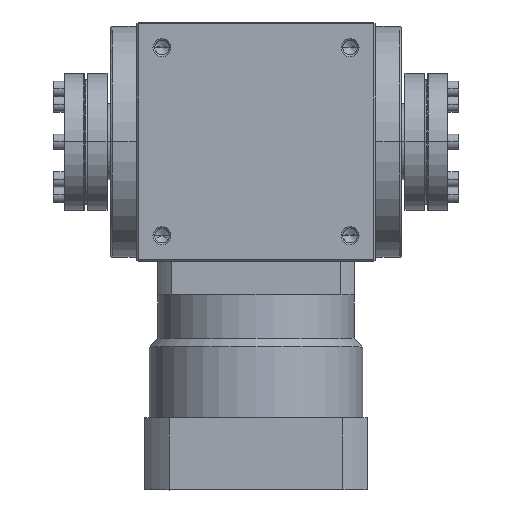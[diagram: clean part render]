
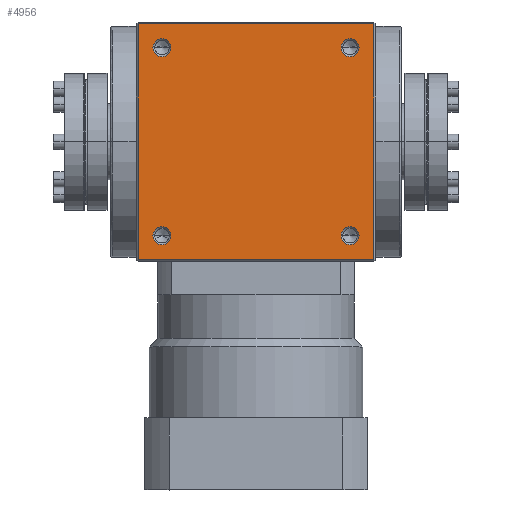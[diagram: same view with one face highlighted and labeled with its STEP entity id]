
A CAD part, top view. The second image highlights one B-rep face of the part: STEP entity #4956.
In plain terms, the highlighted planar face has unit normal (0, 0, 1).
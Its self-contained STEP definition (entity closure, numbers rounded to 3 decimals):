
#73 = ORIENTED_EDGE ( 'NONE', *, *, #784, .F. ) ;
#118 = DIRECTION ( 'NONE',  ( 0., 0., 1. ) ) ;
#169 = FACE_BOUND ( 'NONE', #16617, .T. ) ;
#228 = FACE_BOUND ( 'NONE', #10086, .T. ) ;
#759 = CIRCLE ( 'NONE', #19537, 5.25 ) ;
#784 = EDGE_CURVE ( 'NONE', #18448, #18470, #8925, .T. ) ;
#1139 = EDGE_LOOP ( 'NONE', ( #22423, #21860 ) ) ;
#1668 = AXIS2_PLACEMENT_3D ( 'NONE', #20353, #20347, #20320 ) ;
#1831 = CARTESIAN_POINT ( 'NONE',  ( -69., -69., 70. ) ) ;
#1834 = ORIENTED_EDGE ( 'NONE', *, *, #8769, .F. ) ;
#1878 = CIRCLE ( 'NONE', #10608, 5.25 ) ;
#1897 = EDGE_CURVE ( 'NONE', #3771, #20973, #14507, .T. ) ;
#2059 = EDGE_CURVE ( 'NONE', #9907, #21392, #20279, .T. ) ;
#2240 = EDGE_CURVE ( 'NONE', #8335, #8402, #3948, .T. ) ;
#2551 = CARTESIAN_POINT ( 'NONE',  ( 0., 69., 70. ) ) ;
#2604 = CARTESIAN_POINT ( 'NONE',  ( -55., 55., 70. ) ) ;
#2718 = VERTEX_POINT ( 'NONE', #9543 ) ;
#3641 = AXIS2_PLACEMENT_3D ( 'NONE', #22215, #22354, #16405 ) ;
#3771 = VERTEX_POINT ( 'NONE', #12363 ) ;
#3946 = CARTESIAN_POINT ( 'NONE',  ( 69., 69., 70. ) ) ;
#3948 = CIRCLE ( 'NONE', #1668, 5.25 ) ;
#3983 = ORIENTED_EDGE ( 'NONE', *, *, #10429, .F. ) ;
#4386 = DIRECTION ( 'NONE',  ( 1., 0., 0. ) ) ;
#4426 = FACE_BOUND ( 'NONE', #1139, .T. ) ;
#4661 = VECTOR ( 'NONE', #16226, 1000. ) ;
#4956 = ADVANCED_FACE ( 'NONE', ( #17479, #228, #169, #4426, #12500 ), #11900, .F. ) ;
#4978 = LINE ( 'NONE', #16221, #4661 ) ;
#5178 = DIRECTION ( 'NONE',  ( 0., -1., 0. ) ) ;
#5539 = DIRECTION ( 'NONE',  ( 1., 0., 0. ) ) ;
#5691 = ORIENTED_EDGE ( 'NONE', *, *, #16385, .F. ) ;
#5717 = VERTEX_POINT ( 'NONE', #1831 ) ;
#5968 = CARTESIAN_POINT ( 'NONE',  ( -49.75, -55., 70. ) ) ;
#6051 = DIRECTION ( 'NONE',  ( 1., 0., 0. ) ) ;
#6052 = DIRECTION ( 'NONE',  ( 0., 0., 1. ) ) ;
#6114 = CARTESIAN_POINT ( 'NONE',  ( -55., 55., 70. ) ) ;
#6334 = DIRECTION ( 'NONE',  ( 1., 0., 0. ) ) ;
#6363 = CARTESIAN_POINT ( 'NONE',  ( 55., 55., 70. ) ) ;
#6528 = ORIENTED_EDGE ( 'NONE', *, *, #11005, .T. ) ;
#6587 = DIRECTION ( 'NONE',  ( 0., 0., 1. ) ) ;
#6615 = CARTESIAN_POINT ( 'NONE',  ( -55., -55., 70. ) ) ;
#7420 = ORIENTED_EDGE ( 'NONE', *, *, #8679, .F. ) ;
#7526 = LINE ( 'NONE', #9529, #16242 ) ;
#7650 = DIRECTION ( 'NONE',  ( 0., 0., 1. ) ) ;
#7705 = DIRECTION ( 'NONE',  ( 1., 0., 0. ) ) ;
#8010 = DIRECTION ( 'NONE',  ( 0., 0., -1. ) ) ;
#8335 = VERTEX_POINT ( 'NONE', #9709 ) ;
#8402 = VERTEX_POINT ( 'NONE', #9066 ) ;
#8674 = CIRCLE ( 'NONE', #10976, 5.25 ) ;
#8679 = EDGE_CURVE ( 'NONE', #20973, #3771, #20117, .T. ) ;
#8710 = EDGE_CURVE ( 'NONE', #18470, #18448, #759, .T. ) ;
#8769 = EDGE_CURVE ( 'NONE', #11875, #2718, #9779, .T. ) ;
#8871 = EDGE_CURVE ( 'NONE', #21392, #11893, #9498, .T. ) ;
#8925 = CIRCLE ( 'NONE', #9808, 5.25 ) ;
#9066 = CARTESIAN_POINT ( 'NONE',  ( 49.75, -55., 70. ) ) ;
#9351 = ORIENTED_EDGE ( 'NONE', *, *, #8871, .F. ) ;
#9498 = LINE ( 'NONE', #11706, #10354 ) ;
#9529 = CARTESIAN_POINT ( 'NONE',  ( 0., -69., 70. ) ) ;
#9543 = CARTESIAN_POINT ( 'NONE',  ( -49.75, 55., 70. ) ) ;
#9709 = CARTESIAN_POINT ( 'NONE',  ( 60.25, -55., 70. ) ) ;
#9779 = CIRCLE ( 'NONE', #19472, 5.25 ) ;
#9783 = DIRECTION ( 'NONE',  ( 1., 0., 0. ) ) ;
#9808 = AXIS2_PLACEMENT_3D ( 'NONE', #12862, #12844, #12842 ) ;
#9907 = VERTEX_POINT ( 'NONE', #21901 ) ;
#10086 = EDGE_LOOP ( 'NONE', ( #20360, #73 ) ) ;
#10354 = VECTOR ( 'NONE', #5178, 1000. ) ;
#10429 = EDGE_CURVE ( 'NONE', #5717, #9907, #4978, .T. ) ;
#10608 = AXIS2_PLACEMENT_3D ( 'NONE', #2604, #14737, #4386 ) ;
#10976 = AXIS2_PLACEMENT_3D ( 'NONE', #18136, #7650, #19897 ) ;
#11005 = EDGE_CURVE ( 'NONE', #5717, #11893, #7526, .T. ) ;
#11706 = CARTESIAN_POINT ( 'NONE',  ( 69., 0., 70. ) ) ;
#11875 = VERTEX_POINT ( 'NONE', #22469 ) ;
#11893 = VERTEX_POINT ( 'NONE', #15530 ) ;
#11894 = CARTESIAN_POINT ( 'NONE',  ( 69., -69., 70. ) ) ;
#11900 = PLANE ( 'NONE',  #12409 ) ;
#12229 = DIRECTION ( 'NONE',  ( -1., 0., 0. ) ) ;
#12234 = EDGE_LOOP ( 'NONE', ( #5691, #1834 ) ) ;
#12363 = CARTESIAN_POINT ( 'NONE',  ( -60.25, -55., 70. ) ) ;
#12409 = AXIS2_PLACEMENT_3D ( 'NONE', #11894, #8010, #12229 ) ;
#12500 = FACE_OUTER_BOUND ( 'NONE', #14561, .T. ) ;
#12625 = CARTESIAN_POINT ( 'NONE',  ( 60.25, 55., 70. ) ) ;
#12842 = DIRECTION ( 'NONE',  ( 1., 0., 0. ) ) ;
#12844 = DIRECTION ( 'NONE',  ( 0., 0., 1. ) ) ;
#12862 = CARTESIAN_POINT ( 'NONE',  ( 55., 55., 70. ) ) ;
#14507 = CIRCLE ( 'NONE', #3641, 5.25 ) ;
#14561 = EDGE_LOOP ( 'NONE', ( #6528, #9351, #17313, #3983 ) ) ;
#14737 = DIRECTION ( 'NONE',  ( 0., 0., 1. ) ) ;
#15326 = VECTOR ( 'NONE', #5539, 1000. ) ;
#15530 = CARTESIAN_POINT ( 'NONE',  ( 69., -69., 70. ) ) ;
#15922 = ORIENTED_EDGE ( 'NONE', *, *, #1897, .F. ) ;
#16221 = CARTESIAN_POINT ( 'NONE',  ( -69., 0., 70. ) ) ;
#16226 = DIRECTION ( 'NONE',  ( 0., 1., 0. ) ) ;
#16242 = VECTOR ( 'NONE', #9783, 1000. ) ;
#16340 = EDGE_CURVE ( 'NONE', #8402, #8335, #8674, .T. ) ;
#16385 = EDGE_CURVE ( 'NONE', #2718, #11875, #1878, .T. ) ;
#16405 = DIRECTION ( 'NONE',  ( 1., 0., 0. ) ) ;
#16617 = EDGE_LOOP ( 'NONE', ( #7420, #15922 ) ) ;
#17313 = ORIENTED_EDGE ( 'NONE', *, *, #2059, .F. ) ;
#17479 = FACE_BOUND ( 'NONE', #12234, .T. ) ;
#17801 = CARTESIAN_POINT ( 'NONE',  ( 49.75, 55., 70. ) ) ;
#18136 = CARTESIAN_POINT ( 'NONE',  ( 55., -55., 70. ) ) ;
#18448 = VERTEX_POINT ( 'NONE', #17801 ) ;
#18470 = VERTEX_POINT ( 'NONE', #12625 ) ;
#19472 = AXIS2_PLACEMENT_3D ( 'NONE', #6114, #6052, #6051 ) ;
#19537 = AXIS2_PLACEMENT_3D ( 'NONE', #6363, #118, #6334 ) ;
#19848 = AXIS2_PLACEMENT_3D ( 'NONE', #6615, #6587, #7705 ) ;
#19897 = DIRECTION ( 'NONE',  ( 1., 0., 0. ) ) ;
#20117 = CIRCLE ( 'NONE', #19848, 5.25 ) ;
#20279 = LINE ( 'NONE', #2551, #15326 ) ;
#20320 = DIRECTION ( 'NONE',  ( 1., 0., 0. ) ) ;
#20347 = DIRECTION ( 'NONE',  ( 0., 0., 1. ) ) ;
#20353 = CARTESIAN_POINT ( 'NONE',  ( 55., -55., 70. ) ) ;
#20360 = ORIENTED_EDGE ( 'NONE', *, *, #8710, .F. ) ;
#20973 = VERTEX_POINT ( 'NONE', #5968 ) ;
#21392 = VERTEX_POINT ( 'NONE', #3946 ) ;
#21860 = ORIENTED_EDGE ( 'NONE', *, *, #16340, .F. ) ;
#21901 = CARTESIAN_POINT ( 'NONE',  ( -69., 69., 70. ) ) ;
#22215 = CARTESIAN_POINT ( 'NONE',  ( -55., -55., 70. ) ) ;
#22354 = DIRECTION ( 'NONE',  ( 0., 0., 1. ) ) ;
#22423 = ORIENTED_EDGE ( 'NONE', *, *, #2240, .F. ) ;
#22469 = CARTESIAN_POINT ( 'NONE',  ( -60.25, 55., 70. ) ) ;
